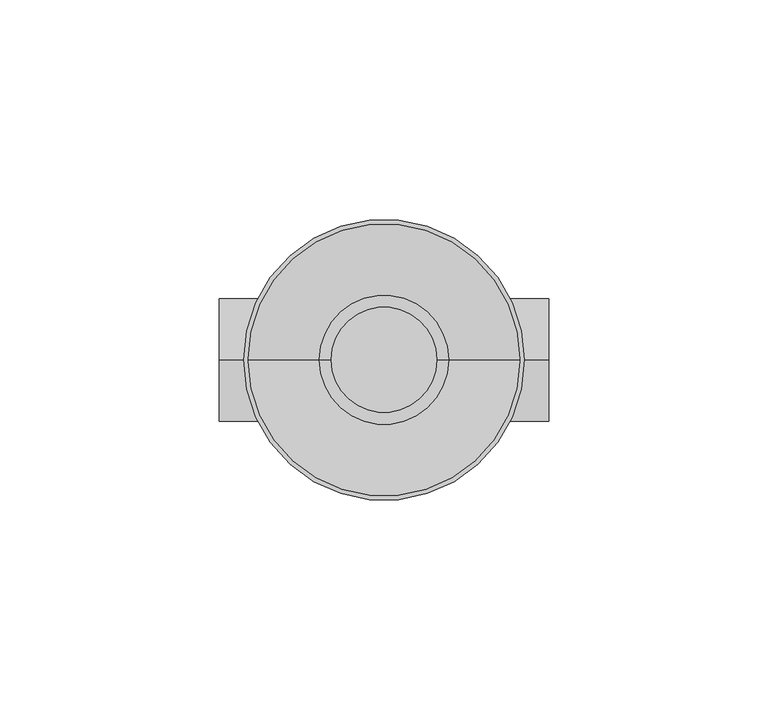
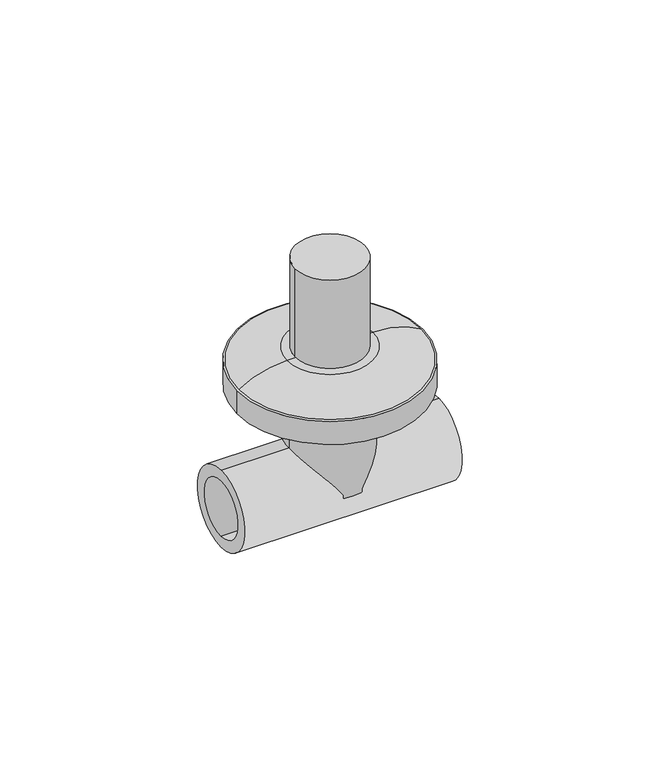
"""IFC4 building model written with IfcOpenShell, lengths in millimetres: valve geometry, EGB_VASEN_ PPR_Valvula oculta WXR870 : Válvula oculta WXR870."""

from ifc_helpers import new_model, si_unit, point, frame, origin, origin_with_axes, origin_2d, place, context, project, spatial, circle_curve, ellipse_curve, trimmed, segment, composite_curve, outline, extrude, source, transform, mapped, element, save
from ifc_brep_helpers import plane_surface, revolved_surface, advanced_brep


def valve_a12ee148(model_context):
    return source(origin(), model_context, "Body", "SolidModel", [
        extrude(outline(composite_curve([segment(trimmed(circle_curve(origin_2d(), 32.0), [point((-32.0, 0.0))], [point((32.0, 0.0))], False, "CARTESIAN"), True, "CONTINUOUS"), segment(trimmed(circle_curve(origin_2d(), 32.0), [point((32.0, 0.0))], [point((-32.0, 0.0))], False, "CARTESIAN"), True, "CONTINUOUS")], self_intersect=False)), frame((0.0, 0.0, 32.6), z_axis=(0.0, 0.0, 1.0), x_axis=(1.0, 0.0, 0.0)), (0.0, 0.0, 1.0), 8.4),
        advanced_brep(
        [(0.0, 0.0, 41.0), (-32.0, 0.0, 41.0), (32.0, 0.0, 41.0), (14.7160328, 0.0, 46.0), (-14.7160328, 0.0, 46.0), (0.0, 0.0, 46.0)],
        [
            (0, 1),
            (1, 2, circle_curve(frame((0.0, 0.0, 41.0), z_axis=(0.0, 0.0, -1.0), x_axis=(-1.0, 0.0, 0.0)), 32.0)),
            (2, 0),
            (2, 1, circle_curve(frame((0.0, 0.0, 41.0), z_axis=(0.0, 0.0, -1.0), x_axis=(-1.0, 0.0, 0.0)), 32.0)),
            (3, 4, circle_curve(frame((0.0, 0.0, 46.0), z_axis=(0.0, 0.0, 1.0), x_axis=(-1.0, 0.0, 0.0)), 14.7160328)),
            (4, 5),
            (5, 3),
            (4, 3, circle_curve(frame((0.0, 0.0, 46.0), z_axis=(0.0, 0.0, 1.0), x_axis=(-1.0, 0.0, 0.0)), 14.7160328)),
            (1, 4, circle_curve(frame((-14.7160328, 0.0, 13.6264477), z_axis=(0.0, 1.0, 0.0), x_axis=(1.0, 0.0, 0.0)), 32.3735523)),
            (3, 2, circle_curve(frame((14.7160328, 0.0, 13.6264477), z_axis=(0.0, 1.0, 0.0), x_axis=(-1.0, 0.0, 0.0)), 32.3735523)),
        ],
        [
            plane_surface(frame((0.0, 0.0, 41.0), z_axis=(0.0, 0.0, -1.0), x_axis=(-1.0, 0.0, 0.0))),
            plane_surface(frame((0.0, 0.0, 46.0), z_axis=(0.0, 0.0, 1.0), x_axis=(-1.0, 0.0, 0.0))),
            revolved_surface(trimmed(ellipse_curve(frame((-14.7160328, 0.0, 13.6264477), z_axis=(0.0, -1.0, 0.0), x_axis=(1.0, 0.0, 0.0)), 32.3735523, 32.3735523), [point((-14.7160328, 0.0, 46.0))], [point((-32.0, 0.0, 41.0))], True, "CARTESIAN"), (0.0, 0.0, 46.0), (0.0, 0.0, -1.0)),
        ],
        [
            (0, [[1, 2, 3]]),
            (0, [[-3, 4, -1]]),
            (1, [[5, 6, 7]]),
            (1, [[8, -7, -6]]),
            (2, [[-2, 9, -5, 10]]),
            (2, [[-4, -10, -8, -9]]),
        ],
    ),
        extrude(outline(composite_curve([segment(trimmed(circle_curve(origin_2d(), 12.0), [point((-12.0, 0.0))], [point((12.0, 0.0))], False, "CARTESIAN"), True, "CONTINUOUS"), segment(trimmed(circle_curve(origin_2d(), 12.0), [point((12.0, 0.0))], [point((-12.0, 0.0))], False, "CARTESIAN"), True, "CONTINUOUS")], self_intersect=False)), frame((0.0, 0.0, 46.0), z_axis=(0.0, 0.0, 1.0), x_axis=(1.0, 0.0, 0.0)), (0.0, 0.0, 1.0), 32.5),
        extrude(outline(composite_curve([segment(trimmed(circle_curve(origin_2d(), 14.0), [point((-14.0, 0.0))], [point((14.0, 0.0))], False, "CARTESIAN"), True, "CONTINUOUS"), segment(trimmed(circle_curve(origin_2d(), 14.0), [point((14.0, 0.0))], [point((-14.0, 0.0))], False, "CARTESIAN"), True, "CONTINUOUS")], self_intersect=False)), origin_with_axes(), (0.0, 0.0, 1.0), 33.5),
        extrude(outline(composite_curve([segment(trimmed(circle_curve(origin_2d(), 14.0), [point((0.0, -14.0))], [point((0.0, 14.0))], False, "CARTESIAN"), True, "CONTINUOUS"), segment(trimmed(circle_curve(origin_2d(), 14.0), [point((0.0, 14.0))], [point((0.0, -14.0))], False, "CARTESIAN"), True, "CONTINUOUS")], self_intersect=False), holes=[composite_curve([segment(trimmed(circle_curve(origin_2d(), 10.0), [point((0.0, -10.0))], [point((0.0, 10.0))], True, "CARTESIAN"), True, "CONTINUOUS"), segment(trimmed(circle_curve(origin_2d(), 10.0), [point((0.0, 10.0))], [point((0.0, -10.0))], True, "CARTESIAN"), True, "CONTINUOUS")], self_intersect=False)]), frame((-37.5, 0.0, 0.0), z_axis=(1.0, 0.0, 0.0), x_axis=(0.0, 1.0, 0.0)), (0.0, 0.0, 1.0), 75.0),
    ])


if __name__ == "__main__":
    model = new_model("IFC4")
    model_context = context("Model", 3, world=origin())
    ifc_project = project(units=[si_unit("LENGTHUNIT", "METRE", prefix="MILLI")], contexts=[model_context])
    site = spatial("IfcSite", under=ifc_project)
    building = spatial("IfcBuilding", under=site)
    placement = place(None, origin())
    valve_shape = valve_a12ee148(model_context)
    element("IfcValve", 1, ObjectType="EGB_VASEN_ PPR_Valvula oculta WXR870 : Válvula oculta WXR870", at=placement, inside=building, context=model_context, shape_type="MappedRepresentation", body=[
        mapped(valve_shape, transform((0.0, 0.0, 0.0), x_axis=(1.0, 0.0, 0.0), y_axis=(0.0, 1.0, 0.0), z_axis=(0.0, 0.0, 1.0))),
    ])
    save(model, "model.ifc")
